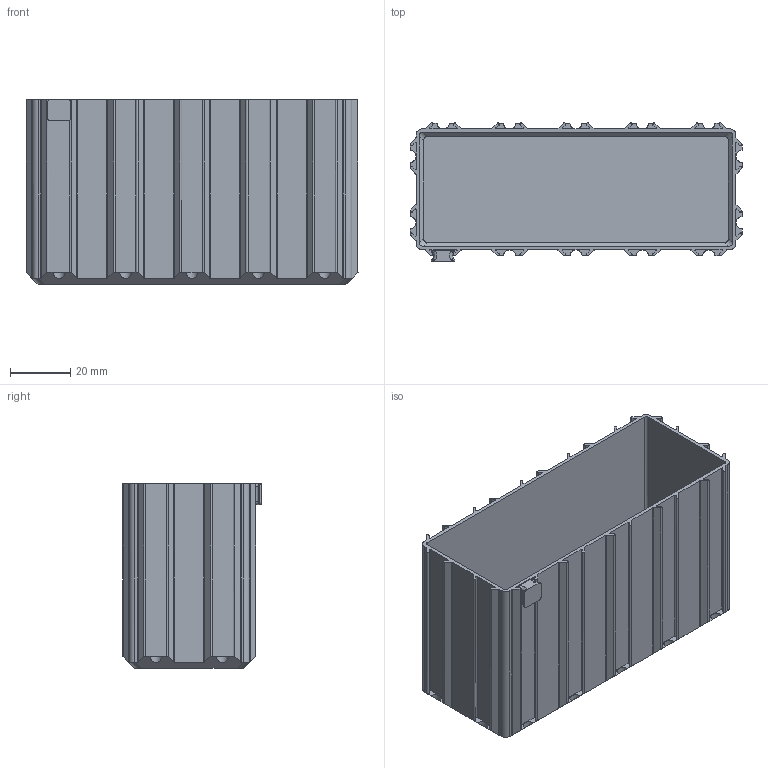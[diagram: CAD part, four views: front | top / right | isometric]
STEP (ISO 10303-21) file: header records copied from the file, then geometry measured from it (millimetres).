
FILE_DESCRIPTION(/* description */ (''),/* implementation_level */ '2;1');
FILE_NAME(/* name */ 'BOX_x05_y02_z060_tx0_ty0.stp',/* time_stamp */ '2024-02-16T08:36:11+01:00',/* author */ ('ott'),/* organization */ (''),/* preprocessor_version */ 'ST-DEVELOPER v19.2',/* originating_system */ 'Autodesk Inventor 2023',/* authorisation */ '');
FILE_SCHEMA (('AUTOMOTIVE_DESIGN { 1 0 10303 214 3 1 1 }','TECHNICAL_DATA_PACKAGING'));
Length unit declared in the file: millimetre
Products named in the file (1): BOX_x05_y02_z060_tx0_ty0
Bounding box: 110 x 45.8 x 61.2 mm (x, y, z)
Volume: 29032.4 mm3; surface area: 49601.3 mm2
Topology: 2 solids, 2 shells, 263 faces, 746 edges, 488 vertices
Faces by surface type: plane 143, cylinder 116, torus 4
Entity records: 8980 total; most frequent: CARTESIAN_POINT 1590, DIRECTION 1540, ORIENTED_EDGE 1492, EDGE_CURVE 746, AXIS2_PLACEMENT_3D 538, VERTEX_POINT 488, LINE 464, VECTOR 464
